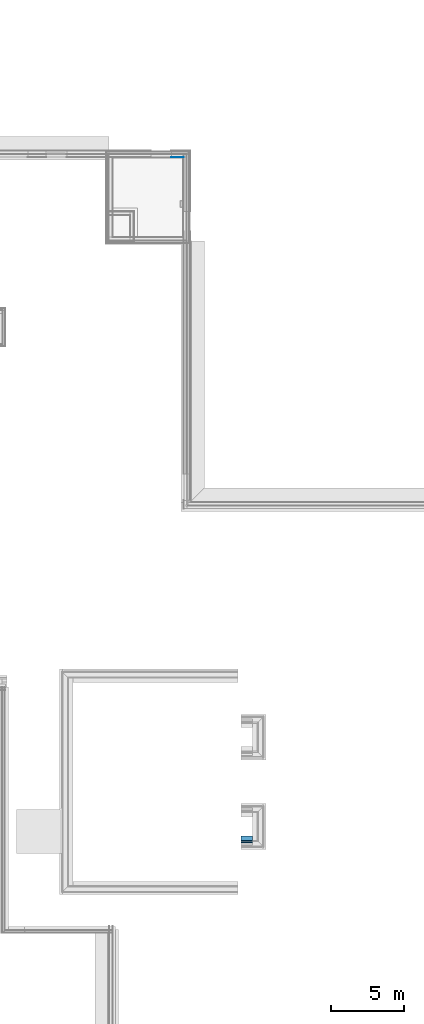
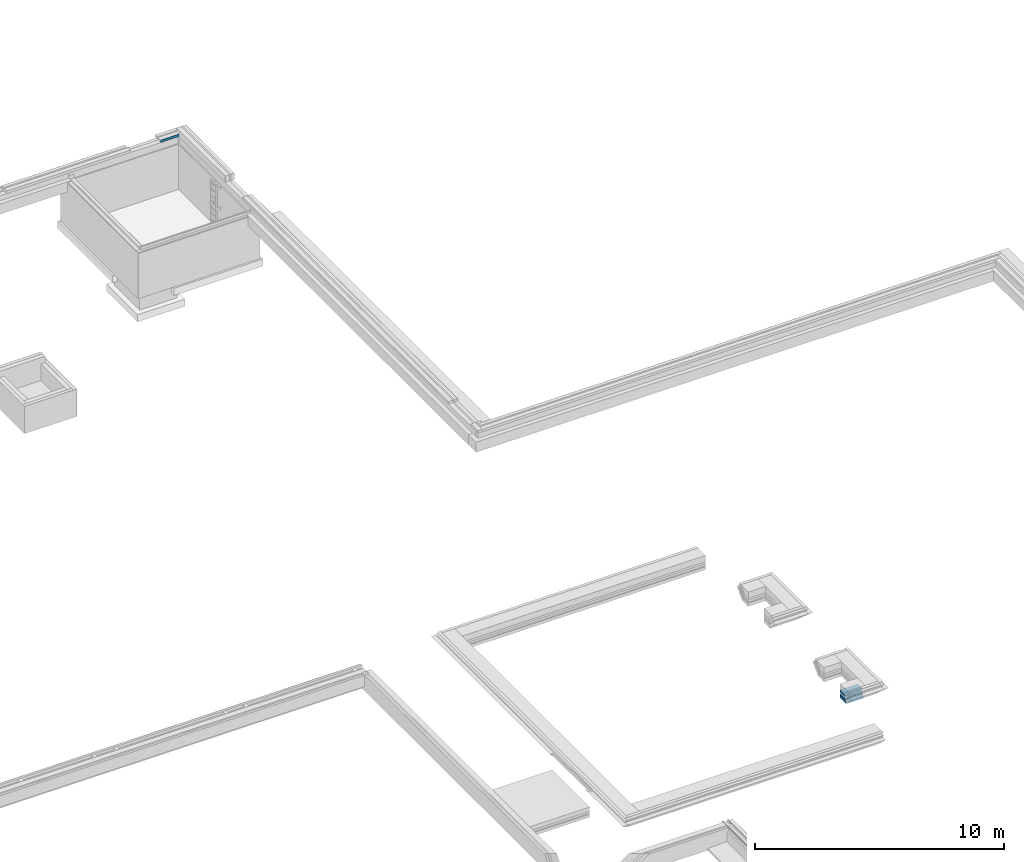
# One storey, part 16 of 17: 4 building element parts, 2 elements without a shape of their own.
"""IFC2X3 building model written with IfcOpenShell, lengths in millimetres."""

import ifcopenshell
import ifcopenshell.guid

model = None  # the IFC model being written
_history = None  # IfcOwnerHistory: only IFC2X3 demands one
_inside = {}  # id of a spatial element -> (the spatial element, [elements in it])
_under = {}  # id of a project, library or spatial element -> (it, [spatial elements below it])
_declared = {}  # id of a project -> (the project, [libraries it declares])
_typed = {}  # id of a type object -> (the type object, [elements of that type])
_made_of = {}  # id of a material, layer set ... -> (it, [elements and type objects made of it])


def new_model(schema):
    """Start an empty IFC model of exactly this schema.

    Asked for "IFC4X3", IfcOpenShell would pick the latest addendum, in which some entities
    have other attributes; the version numbers below select the first issue.
    IFC2X3 requires an IfcOwnerHistory on every rooted entity: one is made here for all.
    """
    global model, _history
    if schema == "IFC4X3":
        model = ifcopenshell.file(schema_version=(4, 3, 0, 0))
    else:
        model = ifcopenshell.file(schema=schema)
    _inside.clear()
    _under.clear()
    _declared.clear()
    _typed.clear()
    _made_of.clear()
    _history = None
    if model.schema == "IFC2X3":
        org = make("IfcOrganization", Name="unknown")
        user = make(
            "IfcPersonAndOrganization",
            ThePerson=make("IfcPerson", FamilyName="unknown"),
            TheOrganization=org,
        )
        app = make(
            "IfcApplication",
            ApplicationDeveloper=org,
            Version="unknown",
            ApplicationFullName="unknown",
            ApplicationIdentifier="unknown",
        )
        _history = make(
            "IfcOwnerHistory",
            OwningUser=user,
            OwningApplication=app,
            ChangeAction="ADDED",
            CreationDate=0,
        )
    return model


def make(cls, **values):
    """One entity of the class cls with the attributes given. An attribute that is None is left unset."""
    return model.create_entity(
        cls, **{name: value for name, value in values.items() if value is not None}
    )


def entity(cls, *values):
    """Any entity or typed value of the class cls, its attributes in the order of the schema. None: left unset."""
    e = model.create_entity(cls)
    for i, value in enumerate(values):
        if value is not None:
            e[i] = value
    return e


def rooted(cls, **values):
    """An entity with a GlobalId (a new one), such as an element, a storey or a relation."""
    return make(cls, GlobalId=ifcopenshell.guid.new(), OwnerHistory=_history, **values)


def si_unit(unit_type, name, prefix=None):
    """IfcSIUnit, for example si_unit("LENGTHUNIT", "METRE", prefix="MILLI")."""
    return make("IfcSIUnit", UnitType=unit_type, Prefix=prefix, Name=name)


def converted_unit(unit_type, name, factor, base, dimensions=None, offset=None):
    """IfcConversionBasedUnit, such as the inch: factor (a typed value) times the base unit."""
    return make(
        "IfcConversionBasedUnit"
        if offset is None
        else "IfcConversionBasedUnitWithOffset",
        ConversionOffset=offset,
        Dimensions=None
        if dimensions is None
        else entity("IfcDimensionalExponents", *dimensions),
        UnitType=unit_type,
        Name=name,
        ConversionFactor=make(
            "IfcMeasureWithUnit", ValueComponent=factor, UnitComponent=base
        ),
    )


def derived_unit(unit_type, elements):
    """IfcDerivedUnit: a product of units, each with its exponent."""
    return make(
        "IfcDerivedUnit",
        Elements=[
            make("IfcDerivedUnitElement", Unit=unit, Exponent=power)
            for unit, power in elements
        ],
        UnitType=unit_type,
    )


def money_unit(currency):
    """IfcMonetaryUnit."""
    return make("IfcMonetaryUnit", Currency=currency)


def assignment(units):
    """IfcUnitAssignment: the units of a project."""
    return None if units is None else make("IfcUnitAssignment", Units=units)


def point(xyz):
    """IfcCartesianPoint."""
    return None if xyz is None else make("IfcCartesianPoint", Coordinates=xyz)


def direction(xyz):
    """IfcDirection."""
    return None if xyz is None else make("IfcDirection", DirectionRatios=xyz)


def frame(location, z_axis=None, x_axis=None):
    """IfcAxis2Placement3D, a coordinate frame: its origin and axes. An axis left out is left unset."""
    return make(
        "IfcAxis2Placement3D",
        Location=point(location),
        Axis=direction(z_axis),
        RefDirection=direction(x_axis),
    )


def origin_with_axes():
    """The frame at (0, 0, 0) with the z axis (0, 0, 1) and the x axis (1, 0, 0) written out."""
    return frame((0.0, 0.0, 0.0), z_axis=(0.0, 0.0, 1.0), x_axis=(1.0, 0.0, 0.0))


def place(relative_to, where):
    """IfcLocalPlacement: puts the frame where relative to a parent placement (None: the world)."""
    return make(
        "IfcLocalPlacement", PlacementRelTo=relative_to, RelativePlacement=where
    )


def context(
    kind, dimensions, precision=None, world=None, true_north=None, identifier=None
):
    """IfcGeometricRepresentationContext, for example the 3D "Model" context."""
    return make(
        "IfcGeometricRepresentationContext",
        ContextIdentifier=identifier,
        ContextType=kind,
        CoordinateSpaceDimension=dimensions,
        Precision=precision,
        WorldCoordinateSystem=world,
        TrueNorth=true_north,
    )


def subcontext(parent, identifier, kind, view, scale=None):
    """IfcGeometricRepresentationSubContext, for example "Body" below "Model"."""
    return make(
        "IfcGeometricRepresentationSubContext",
        ContextIdentifier=identifier,
        ContextType=kind,
        ParentContext=parent,
        TargetScale=scale,
        TargetView=view,
    )


def project(units=None, contexts=None):
    """IfcProject with its units and contexts."""
    return rooted(
        "IfcProject",
        Name="project",
        RepresentationContexts=contexts,
        UnitsInContext=assignment(units),
    )


def spatial(cls, under=None, at=None, **own):
    """A site, building, storey or space (cls), placed at a placement, below another one or the project."""
    s = rooted(cls, ObjectPlacement=at, **own)
    if under is not None:
        _under.setdefault(under.id(), (under, []))[1].append(s)
    return s


def faces_of(points, faces, orient=None, outer=None):
    """IfcFace entities. A face is a list of loops; a loop is a list of indices into points, from 0.

    orient and outer hold one flag for each loop. By default every Orientation is true, the
    first loop of a face is its IfcFaceOuterBound and the others are IfcFaceBound.
    """
    made = []
    for i, loops in enumerate(faces):
        bounds = []
        for j, loop in enumerate(loops):
            is_outer = j == 0 if outer is None else outer[i][j]
            bounds.append(
                make(
                    "IfcFaceOuterBound" if is_outer else "IfcFaceBound",
                    Bound=make("IfcPolyLoop", Polygon=[points[k] for k in loop]),
                    Orientation=True if orient is None else orient[i][j],
                )
            )
        made.append(make("IfcFace", Bounds=bounds))
    return made


def faceted_brep(points, faces, orient=None, outer=None, voids=None):
    """IfcFacetedBrep: a solid bounded by flat faces; with voids (closed shells), ...WithVoids."""
    shared = [point(p) for p in points]
    hull = make("IfcClosedShell", CfsFaces=faces_of(shared, faces, orient, outer))
    if voids is None:
        return make("IfcFacetedBrep", Outer=hull)
    return make(
        "IfcFacetedBrepWithVoids",
        Outer=hull,
        Voids=[
            make(cls, CfsFaces=faces_of(shared, fs, o, b)) for cls, fs, o, b in voids
        ],
    )


def shape(context_of_items, identifier, shape_type, items):
    """IfcShapeRepresentation: the items that make up one representation, for example the "Body"."""
    return make(
        "IfcShapeRepresentation",
        ContextOfItems=context_of_items,
        RepresentationIdentifier=identifier,
        RepresentationType=shape_type,
        Items=items,
    )


def material(Name=None, Category=None):
    """IfcMaterial."""
    return make("IfcMaterial", Name=Name, Category=Category)


def made_of(thing, what):
    """Note that an element or type object is made of a material, layer set ...; save() writes the relation."""
    if what is not None:
        _made_of.setdefault(what.id(), (what, []))[1].append(thing)
    return thing


def type_object(cls, material=None, **own):
    """A type object (cls), such as IfcWallType, which elements share."""
    return made_of(rooted(cls, **own), material)


def element(
    cls,
    number,
    at=None,
    inside=None,
    cuts=None,
    type_object=None,
    material=None,
    context=None,
    identifier="Body",
    shape_type=None,
    held_by="IfcProductDefinitionShape",
    body=None,
    shapes=None,
    **own,
):
    """One element of the class cls, such as IfcWall. Its Tag is "e" and its number.

    at: its placement. inside: the storey or other place that contains it. cuts: it is an
    opening in that element (IfcRelVoidsElement). A single representation is given by context,
    identifier, shape_type and body (its items); several are given by shapes. held_by: the class
    of the entity that holds the representations. save() writes the other relations.
    """
    e = rooted(cls, Tag="e%d" % number, ObjectPlacement=at, **own)
    if body is not None:
        shapes = [shape(context, identifier, shape_type, body)]
    if shapes is not None:
        e.Representation = make(held_by, Representations=shapes)
    if inside is not None:
        _inside.setdefault(inside.id(), (inside, []))[1].append(e)
    if cuts is not None:
        rooted(
            "IfcRelVoidsElement", RelatingBuildingElement=cuts, RelatedOpeningElement=e
        )
    if type_object is not None:
        _typed.setdefault(type_object.id(), (type_object, []))[1].append(e)
    return made_of(e, material)


def aggregate(whole, parts):
    """IfcRelAggregates: a whole, such as a stair, and the parts it consists of."""
    return rooted("IfcRelAggregates", RelatingObject=whole, RelatedObjects=parts)


def save(model, path):
    """Write the relations noted so far, then the file.

    IfcRelAggregates (storeys below a building ...), IfcRelContainedInSpatialStructure (elements
    in a storey), IfcRelDefinesByType, IfcRelAssociatesMaterial and IfcRelDeclares: one each for
    every whole, place, type object, material and project.
    """
    for whole, parts in _under.values():
        aggregate(whole, parts)
    for where, things in _inside.values():
        rooted(
            "IfcRelContainedInSpatialStructure",
            RelatedElements=things,
            RelatingStructure=where,
        )
    for kind, things in _typed.values():
        rooted("IfcRelDefinesByType", RelatedObjects=things, RelatingType=kind)
    for what, things in _made_of.values():
        rooted("IfcRelAssociatesMaterial", RelatedObjects=things, RelatingMaterial=what)
    for by, libraries in _declared.values():
        rooted("IfcRelDeclares", RelatingContext=by, RelatedDefinitions=libraries)
    model.write(path)


model = new_model("IFC2X3")

# Units and contexts
model_context = context("Model", 3, precision=0.01, world=origin_with_axes(), true_north=direction((0.0, 1.0)))
body_context = subcontext(model_context, "Body", "Model", "MODEL_VIEW")
ifc_project = project(units=[si_unit("LENGTHUNIT", "METRE", prefix="MILLI"), si_unit("AREAUNIT", "SQUARE_METRE"), si_unit("VOLUMEUNIT", "CUBIC_METRE"), converted_unit("PLANEANGLEUNIT", "DEGREE", entity("IfcPlaneAngleMeasure", 0.0174532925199), si_unit("PLANEANGLEUNIT", "RADIAN"), dimensions=[0, 0, 0, 0, 0, 0, 0]), money_unit("EUR"), converted_unit("TIMEUNIT", "Year", entity("IfcTimeMeasure", 31556926.0), si_unit("TIMEUNIT", "SECOND"), dimensions=[0, 0, 1, 0, 0, 0, 0]), si_unit("MASSUNIT", "GRAM", prefix="KILO"), si_unit("THERMODYNAMICTEMPERATUREUNIT", "DEGREE_CELSIUS"), si_unit("LUMINOUSINTENSITYUNIT", "LUMEN"), si_unit("ENERGYUNIT", "JOULE", prefix="MEGA"), derived_unit("THERMALCONDUCTANCEUNIT", [(si_unit("POWERUNIT", "WATT"), 1), (si_unit("LENGTHUNIT", "METRE"), -1), (si_unit("THERMODYNAMICTEMPERATUREUNIT", "KELVIN"), -1)]), derived_unit("SPECIFICHEATCAPACITYUNIT", [(si_unit("ENERGYUNIT", "JOULE"), 1), (si_unit("MASSUNIT", "GRAM", prefix="KILO"), -1), (si_unit("THERMODYNAMICTEMPERATUREUNIT", "KELVIN"), -1)]), derived_unit("MASSDENSITYUNIT", [(si_unit("MASSUNIT", "GRAM", prefix="KILO"), 1), (si_unit("VOLUMEUNIT", "CUBIC_METRE"), -1)])], contexts=[model_context])

# Site, building, storey
site_placement = place(None, origin_with_axes())
site = spatial("IfcSite", under=ifc_project, at=site_placement, Name="Kolde pst 67a", CompositionType="ELEMENT")
building_placement = place(site_placement, origin_with_axes())
building = spatial("IfcBuilding", under=site, at=building_placement, Name="Riigigümnaasium", CompositionType="ELEMENT")
storey_placement = place(building_placement, frame((0.0, 0.0, -1500.0), z_axis=(0.0, 0.0, 1.0), x_axis=(1.0, 0.0, 0.0)))
storey = spatial("IfcBuildingStorey", under=building, at=storey_placement, Name="Vundament", CompositionType="ELEMENT", Elevation=-1500.0)

# Wall, building element parts
wall_type_1 = type_object("IfcWallType", Name="garderoobi plaadipaksendus 916 x 700", PredefinedType="NOTDEFINED")
wall_1_placement = place(storey_placement, frame((64129.5377822, 13574.9633502, 1095.0000029), z_axis=(0.0, 0.0, 1.0), x_axis=(0.999999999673, 2.55773169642e-05, 0.0)))
wall_1 = element("IfcWall", 1, at=wall_1_placement, inside=storey, type_object=wall_type_1, Name="Vundament")
ifc_material_1 = material(Name="_SOOJUSTUS - vahtpolüstüreenplaadid EPS 120 Perimeeter, survetugevus min 120kPa, veeimavus <2%, soojuserijuhtivus λD<0,036 W/(mK)")
building_element_part_1_placement = place(wall_1_placement, origin_with_axes())
building_element_part_1 = element("IfcBuildingElementPart", 2, at=building_element_part_1_placement, material=ifc_material_1, Name="_SOOJUSTUS - vahtpolüstüreenplaadid EPS 120 Perimeeter, survetugevus min 120kPa, veeimavus <2%, soojuserijuhtivus λD<0,036 W/(mK)", context=body_context, shape_type="Brep", body=[
    faceted_brep([(0.0, -4.95922611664, 4.95922427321), (0.0, -46.3388389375, -95.1407949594), (810.465701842, -46.3388389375, -95.1407949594), (810.46126439, -4.95922615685, 4.95922417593), (0.0, 86.6753466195, 4.99999671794), (0.0, 294.997850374, 4.99999671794), (0.0, 294.993597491, -95.1407949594), (810.464165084, 294.993597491, -95.1407949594), (810.46085013, 86.668467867, 4.99999365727), (810.459912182, 294.997850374, 4.99999365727)], [[[0, 1, 2, 3]], [[1, 0, 4, 5, 6]], [[1, 6, 7, 2]], [[8, 3, 2, 7, 9]], [[4, 0, 3, 8]], [[5, 4, 8, 9]], [[6, 5, 9, 7]]]),
])
ifc_material_2 = material(Name="_TÄIDE - tasandus-/tugevduskiht, pinnasesse tambitud killustik E=80MPa, kiilutud fr 4/16")
building_element_part_2_placement = place(wall_1_placement, origin_with_axes())
building_element_part_2 = element("IfcBuildingElementPart", 3, at=building_element_part_2_placement, material=ifc_material_2, Name="_TÄIDE - tasandus-/tugevduskiht, pinnasesse tambitud killustik E=80MPa, kiilutud fr 4/16", context=body_context, shape_type="Brep", body=[
    faceted_brep([(0.0, -108.495191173, -245.19961736), (0.0, -108.512246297, -245.240789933), (810.466006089, -108.512246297, -245.240789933), (810.466006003, -108.495194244, -245.199624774), (0.0, -87.7845113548, -195.240793), (0.0, 294.993584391, -195.240793), (0.0, 294.993573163, -245.240789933), (810.464189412, 294.993573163, -245.240789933), (810.464178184, 294.993584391, -195.240796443), (810.46590154, -87.7845127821, -195.240796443)], [[[0, 1, 2, 3]], [[1, 0, 4, 5, 6]], [[1, 6, 7, 2]], [[3, 2, 7, 8, 9]], [[4, 0, 3, 9]], [[5, 4, 9, 8]], [[6, 5, 8, 7]]]),
])
ifc_material_3 = material(Name="_TÄIDE - tasandus-/tugevduskiht, pinnasesse tambitud killustik E=80MPa, fr 16/32")
building_element_part_3_placement = place(wall_1_placement, origin_with_axes())
building_element_part_3 = element("IfcBuildingElementPart", 4, at=building_element_part_3_placement, material=ifc_material_3, Name="_TÄIDE - tasandus-/tugevduskiht, pinnasesse tambitud killustik E=80MPa, fr 16/32", context=body_context, shape_type="Brep", body=[
    faceted_brep([(810.466313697, -170.189294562, -395.240786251), (810.466008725, -108.512240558, -245.240788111), (0.0, -108.512240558, -245.240798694), (0.0, -170.189294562, -395.24078319), (810.464192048, 294.993570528, -245.240788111), (810.464219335, 294.99354324, -395.240786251), (0.0, 294.993570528, -245.24078505), (0.0, 294.99354324, -395.24078319)], [[[0, 1, 2, 3]], [[4, 1, 0, 5]], [[1, 4, 6, 2]], [[7, 3, 2, 6]], [[5, 0, 3, 7]], [[4, 5, 7, 6]]]),
])
aggregate(wall_1, [building_element_part_1, building_element_part_2, building_element_part_3])

# Wall, building element part
wall_type_2 = type_object("IfcWallType", Name="VS-RB-20/2_sokkel  443", PredefinedType="NOTDEFINED")
wall_2_placement = place(storey_placement, frame((60439.9941222, 60440.0001843, 1480.0), z_axis=(0.0, 0.0, 1.0), x_axis=(-1.0, 0.0, 0.0)))
wall_2 = element("IfcWall", 5, at=wall_2_placement, inside=storey, type_object=wall_type_2, Name="Sokkel")
ifc_material_4 = material(Name="_VIIMISTLUSKIHT - viimistlus vastavalt SA osale")
building_element_part_4_placement = place(wall_2_placement, origin_with_axes())
building_element_part_4 = element("IfcBuildingElementPart", 6, at=building_element_part_4_placement, material=ifc_material_4, Name="_VIIMISTLUSKIHT - viimistlus vastavalt SA osale", context=body_context, shape_type="Brep", body=[
    faceted_brep([(1057.49980822, 210.0, 0.0), (1057.49980822, 200.0, 0.0), (200.0, 200.0, 0.0), (200.0, 210.0, 0.0), (1057.49980822, 210.0, 120.0), (1057.49980822, 200.0, 120.0), (200.0, 200.0, 120.0), (200.0, 210.0, 120.0)], [[[0, 1, 2, 3]], [[0, 4, 5, 1]], [[1, 5, 6, 2]], [[3, 2, 6, 7]], [[4, 0, 3, 7]], [[5, 4, 7, 6]]]),
])
aggregate(wall_2, [building_element_part_4])

save(model, "model.ifc")
